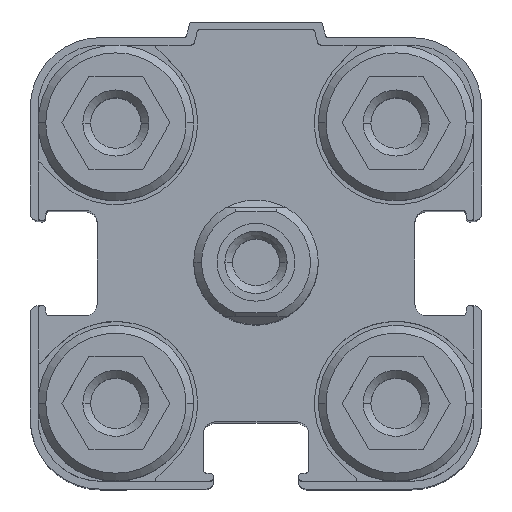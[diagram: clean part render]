
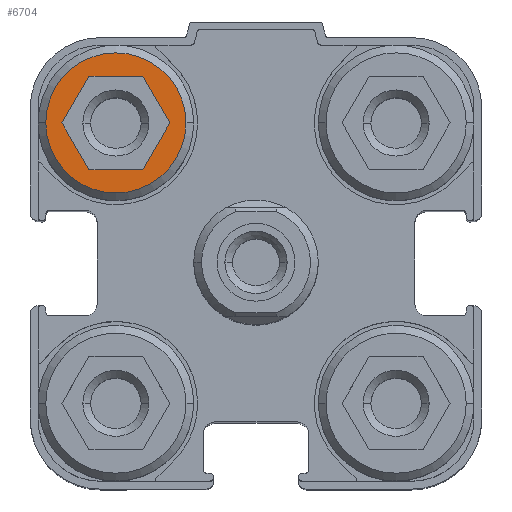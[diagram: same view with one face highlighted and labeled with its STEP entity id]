
A CAD part, top view. The second image highlights one B-rep face of the part: STEP entity #6704.
In plain terms, the highlighted planar face has unit normal (0, 0, 1).
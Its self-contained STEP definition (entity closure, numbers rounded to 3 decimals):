
#355 = CARTESIAN_POINT ( 'NONE',  ( -5.536, 9., 43.15 ) ) ;
#356 = CARTESIAN_POINT ( 'NONE',  ( -7.268, 6., 43.15 ) ) ;
#357 = CARTESIAN_POINT ( 'NONE',  ( -12.464, 9., 43.15 ) ) ;
#360 = CARTESIAN_POINT ( 'NONE',  ( -10.732, 6., 43.15 ) ) ;
#362 = CARTESIAN_POINT ( 'NONE',  ( -7.268, 12., 43.15 ) ) ;
#436 = CARTESIAN_POINT ( 'NONE',  ( -10.732, 12., 43.15 ) ) ;
#895 = EDGE_CURVE ( 'NONE', #10127, #10122, #10602, .T. ) ;
#1502 = EDGE_CURVE ( 'NONE', #10122, #10127, #10670, .T. ) ;
#4452 = CARTESIAN_POINT ( 'NONE',  ( -9., 9., 43.15 ) ) ;
#4453 = DIRECTION ( 'NONE',  ( 0., 0., 1. ) ) ;
#4454 = DIRECTION ( 'NONE',  ( -1., 0., 0. ) ) ;
#4525 = CARTESIAN_POINT ( 'NONE',  ( -9., 9., 43.15 ) ) ;
#4526 = DIRECTION ( 'NONE',  ( 0., 0., 1. ) ) ;
#4527 = DIRECTION ( 'NONE',  ( -1., 0., 0. ) ) ;
#5281 = EDGE_LOOP ( 'NONE', ( #5478, #5479, #5480, #5481, #5482, #5483 ) ) ;
#5284 = EDGE_LOOP ( 'NONE', ( #5484, #5485 ) ) ;
#5478 = ORIENTED_EDGE ( 'NONE', *, *, #7632, .F. ) ;
#5479 = ORIENTED_EDGE ( 'NONE', *, *, #7634, .F. ) ;
#5480 = ORIENTED_EDGE ( 'NONE', *, *, #7636, .F. ) ;
#5481 = ORIENTED_EDGE ( 'NONE', *, *, #7638, .F. ) ;
#5482 = ORIENTED_EDGE ( 'NONE', *, *, #7641, .F. ) ;
#5483 = ORIENTED_EDGE ( 'NONE', *, *, #7630, .F. ) ;
#5484 = ORIENTED_EDGE ( 'NONE', *, *, #895, .T. ) ;
#5485 = ORIENTED_EDGE ( 'NONE', *, *, #1502, .T. ) ;
#5722 = AXIS2_PLACEMENT_3D ( 'NONE', #4525, #4526, #4527 ) ;
#5746 = AXIS2_PLACEMENT_3D ( 'NONE', #4452, #4453, #4454 ) ;
#6060 = AXIS2_PLACEMENT_3D ( 'NONE', #10099, #10111, #10113 ) ;
#6704 = ADVANCED_FACE ( 'NONE', ( #8875, #8871 ), #10101, .F. ) ;
#7221 = CARTESIAN_POINT ( 'NONE',  ( -7.268, 12., 43.15 ) ) ;
#7222 = DIRECTION ( 'NONE',  ( -0.5, 0.866, 0. ) ) ;
#7226 = CARTESIAN_POINT ( 'NONE',  ( -6.402, 7.5, 43.15 ) ) ;
#7231 = CARTESIAN_POINT ( 'NONE',  ( -7.268, 6., 43.15 ) ) ;
#7233 = CARTESIAN_POINT ( 'NONE',  ( -10.732, 6., 43.15 ) ) ;
#7234 = DIRECTION ( 'NONE',  ( 0.5, 0.866, 0. ) ) ;
#7236 = CARTESIAN_POINT ( 'NONE',  ( -11.598, 10.5, 43.15 ) ) ;
#7238 = DIRECTION ( 'NONE',  ( 1., 0., 0. ) ) ;
#7242 = DIRECTION ( 'NONE',  ( 0.5, -0.866, 0. ) ) ;
#7245 = DIRECTION ( 'NONE',  ( -0.5, -0.866, 0. ) ) ;
#7250 = CARTESIAN_POINT ( 'NONE',  ( -10.732, 12., 43.15 ) ) ;
#7251 = DIRECTION ( 'NONE',  ( -1., 0., 0. ) ) ;
#7630 = EDGE_CURVE ( 'NONE', #9750, #9763, #9187, .T. ) ;
#7632 = EDGE_CURVE ( 'NONE', #9751, #9750, #9188, .T. ) ;
#7634 = EDGE_CURVE ( 'NONE', #9755, #9751, #9190, .T. ) ;
#7636 = EDGE_CURVE ( 'NONE', #9752, #9755, #9194, .T. ) ;
#7638 = EDGE_CURVE ( 'NONE', #9806, #9752, #9198, .T. ) ;
#7641 = EDGE_CURVE ( 'NONE', #9763, #9806, #9208, .T. ) ;
#8628 = CARTESIAN_POINT ( 'NONE',  ( -4.5, 9., 43.15 ) ) ;
#8631 = CARTESIAN_POINT ( 'NONE',  ( -13.5, 9., 43.15 ) ) ;
#8871 = FACE_OUTER_BOUND ( 'NONE', #5284, .T. ) ;
#8875 = FACE_BOUND ( 'NONE', #5281, .T. ) ;
#9187 = LINE ( 'NONE', #7221, #9189 ) ;
#9188 = LINE ( 'NONE', #7226, #9193 ) ;
#9189 = VECTOR ( 'NONE', #7222, 1000. ) ;
#9190 = LINE ( 'NONE', #7231, #9197 ) ;
#9193 = VECTOR ( 'NONE', #7234, 1000. ) ;
#9194 = LINE ( 'NONE', #7233, #9201 ) ;
#9197 = VECTOR ( 'NONE', #7238, 1000. ) ;
#9198 = LINE ( 'NONE', #7236, #9205 ) ;
#9201 = VECTOR ( 'NONE', #7242, 1000. ) ;
#9205 = VECTOR ( 'NONE', #7245, 1000. ) ;
#9208 = LINE ( 'NONE', #7250, #9211 ) ;
#9211 = VECTOR ( 'NONE', #7251, 1000. ) ;
#9750 = VERTEX_POINT ( 'NONE', #355 ) ;
#9751 = VERTEX_POINT ( 'NONE', #356 ) ;
#9752 = VERTEX_POINT ( 'NONE', #357 ) ;
#9755 = VERTEX_POINT ( 'NONE', #360 ) ;
#9763 = VERTEX_POINT ( 'NONE', #362 ) ;
#9806 = VERTEX_POINT ( 'NONE', #436 ) ;
#10099 = CARTESIAN_POINT ( 'NONE',  ( -2.779, 10.667, 43.15 ) ) ;
#10101 = PLANE ( 'NONE',  #6060 ) ;
#10111 = DIRECTION ( 'NONE',  ( 0., 0., -1. ) ) ;
#10113 = DIRECTION ( 'NONE',  ( -0.5, -0.866, 0. ) ) ;
#10122 = VERTEX_POINT ( 'NONE', #8628 ) ;
#10127 = VERTEX_POINT ( 'NONE', #8631 ) ;
#10602 = CIRCLE ( 'NONE', #5722, 4.5 ) ;
#10670 = CIRCLE ( 'NONE', #5746, 4.5 ) ;
